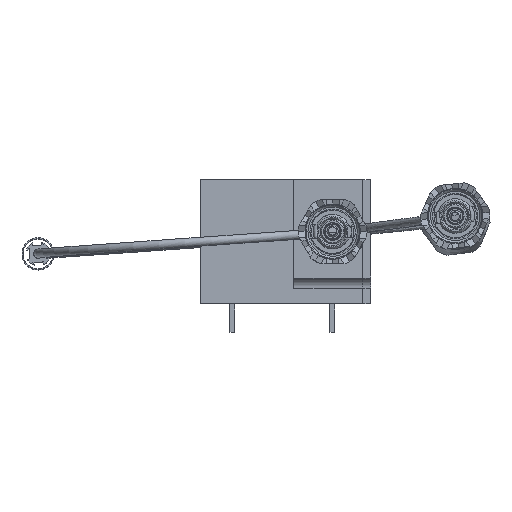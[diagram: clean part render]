
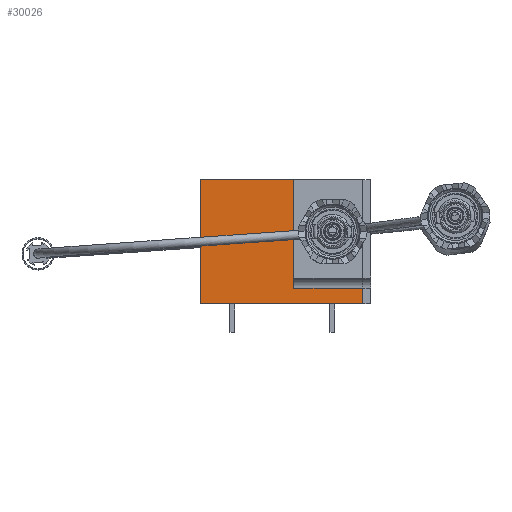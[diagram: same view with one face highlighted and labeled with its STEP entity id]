
A CAD part, top view. The second image highlights one B-rep face of the part: STEP entity #30026.
In plain terms, the highlighted planar face has unit normal (0, 0, 1).
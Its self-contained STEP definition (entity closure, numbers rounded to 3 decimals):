
#86 = FACE_OUTER_BOUND ( 'NONE', #32822, .T. ) ;
#1867 = VECTOR ( 'NONE', #28091, 1000. ) ;
#2233 = VERTEX_POINT ( 'NONE', #25786 ) ;
#2633 = DIRECTION ( 'NONE',  ( 1., 0., 0. ) ) ;
#3367 = CARTESIAN_POINT ( 'NONE',  ( -3.716, 5.444, 14.415 ) ) ;
#6729 = LINE ( 'NONE', #36978, #14960 ) ;
#8357 = LINE ( 'NONE', #38770, #10540 ) ;
#9725 = LINE ( 'NONE', #30008, #27052 ) ;
#10167 = EDGE_CURVE ( 'NONE', #31255, #34174, #9725, .T. ) ;
#10540 = VECTOR ( 'NONE', #18367, 1000. ) ;
#10829 = PLANE ( 'NONE',  #38607 ) ;
#12160 = CARTESIAN_POINT ( 'NONE',  ( -10.712, 5.444, 14.415 ) ) ;
#14390 = ORIENTED_EDGE ( 'NONE', *, *, #24080, .T. ) ;
#14960 = VECTOR ( 'NONE', #2633, 1000. ) ;
#15691 = CARTESIAN_POINT ( 'NONE',  ( -20.216, 16.444, 14.415 ) ) ;
#16690 = DIRECTION ( 'NONE',  ( 0., 1., 0. ) ) ;
#17236 = VERTEX_POINT ( 'NONE', #12160 ) ;
#17387 = ORIENTED_EDGE ( 'NONE', *, *, #23747, .F. ) ;
#17665 = CARTESIAN_POINT ( 'NONE',  ( -10.712, 7.149, 14.415 ) ) ;
#17897 = DIRECTION ( 'NONE',  ( 0., 1., 0. ) ) ;
#18367 = DIRECTION ( 'NONE',  ( -1., 0., 0. ) ) ;
#21548 = LINE ( 'NONE', #17665, #1867 ) ;
#21929 = CARTESIAN_POINT ( 'NONE',  ( -20.216, 7.149, 14.415 ) ) ;
#23747 = EDGE_CURVE ( 'NONE', #34174, #17236, #21548, .T. ) ;
#23935 = EDGE_CURVE ( 'NONE', #2233, #31255, #35281, .T. ) ;
#24061 = EDGE_CURVE ( 'NONE', #2233, #32656, #6729, .T. ) ;
#24080 = EDGE_CURVE ( 'NONE', #32656, #25104, #26282, .T. ) ;
#24511 = EDGE_CURVE ( 'NONE', #25104, #17236, #8357, .T. ) ;
#25104 = VERTEX_POINT ( 'NONE', #3367 ) ;
#25786 = CARTESIAN_POINT ( 'NONE',  ( -20.216, 3.844, 14.415 ) ) ;
#26233 = ORIENTED_EDGE ( 'NONE', *, *, #24511, .T. ) ;
#26282 = LINE ( 'NONE', #37126, #41145 ) ;
#27052 = VECTOR ( 'NONE', #33425, 1000. ) ;
#28091 = DIRECTION ( 'NONE',  ( 0., -1., 0. ) ) ;
#30008 = CARTESIAN_POINT ( 'NONE',  ( -20.416, 16.444, 14.415 ) ) ;
#30026 = ADVANCED_FACE ( 'NONE', ( #86 ), #10829, .F. ) ;
#31255 = VERTEX_POINT ( 'NONE', #15691 ) ;
#32656 = VERTEX_POINT ( 'NONE', #34149 ) ;
#32822 = EDGE_LOOP ( 'NONE', ( #17387, #33465, #44122, #34142, #14390, #26233 ) ) ;
#33425 = DIRECTION ( 'NONE',  ( 1., 0., 0. ) ) ;
#33465 = ORIENTED_EDGE ( 'NONE', *, *, #10167, .F. ) ;
#34142 = ORIENTED_EDGE ( 'NONE', *, *, #24061, .T. ) ;
#34149 = CARTESIAN_POINT ( 'NONE',  ( -3.716, 3.844, 14.415 ) ) ;
#34174 = VERTEX_POINT ( 'NONE', #44186 ) ;
#34865 = CARTESIAN_POINT ( 'NONE',  ( -20.416, 7.149, 14.415 ) ) ;
#35281 = LINE ( 'NONE', #21929, #37425 ) ;
#36978 = CARTESIAN_POINT ( 'NONE',  ( -20.416, 3.844, 14.415 ) ) ;
#37126 = CARTESIAN_POINT ( 'NONE',  ( -3.716, 0., 14.415 ) ) ;
#37425 = VECTOR ( 'NONE', #42227, 1000. ) ;
#38313 = DIRECTION ( 'NONE',  ( 0., 0., -1. ) ) ;
#38607 = AXIS2_PLACEMENT_3D ( 'NONE', #34865, #38313, #17897 ) ;
#38770 = CARTESIAN_POINT ( 'NONE',  ( -11.052, 5.444, 14.415 ) ) ;
#41145 = VECTOR ( 'NONE', #16690, 1000. ) ;
#42227 = DIRECTION ( 'NONE',  ( 0., 1., 0. ) ) ;
#44122 = ORIENTED_EDGE ( 'NONE', *, *, #23935, .F. ) ;
#44186 = CARTESIAN_POINT ( 'NONE',  ( -10.712, 16.444, 14.415 ) ) ;
